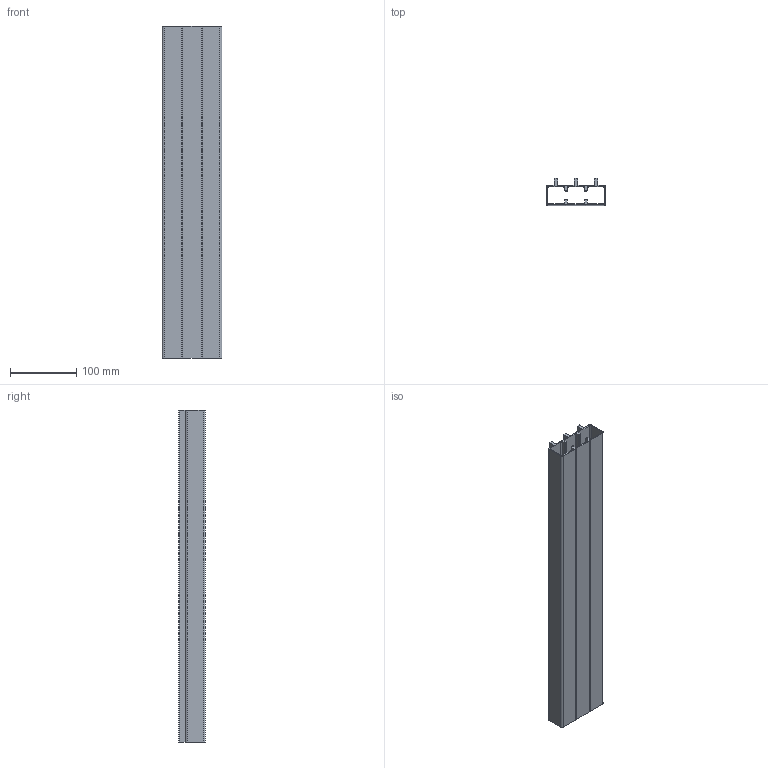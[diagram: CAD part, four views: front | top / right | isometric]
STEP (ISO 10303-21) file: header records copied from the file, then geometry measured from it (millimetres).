
FILE_DESCRIPTION (( 'STEP AP214' ), '1' );
FILE_NAME ('A40731.step', '2024-12-03T16:12:30', ( '' ), ( '' ), 'SwSTEP 2.0', 'SolidWorks 2023', '' );
FILE_SCHEMA (( 'AUTOMOTIVE_DESIGN' ));
Length unit declared in the file: millimetre
Products named in the file (1): A40731
Bounding box: 90 x 40 x 500 mm (x, y, z)
Volume: 357791.3 mm3; surface area: 278043.9 mm2
Topology: 1 solids, 1 shells, 86 faces, 252 edges, 168 vertices
Faces by surface type: cylinder 44, plane 42
Entity records: 2911 total; most frequent: DIRECTION 514, CARTESIAN_POINT 507, ORIENTED_EDGE 504, EDGE_CURVE 252, AXIS2_PLACEMENT_3D 175, VERTEX_POINT 168, VECTOR 164, LINE 164
